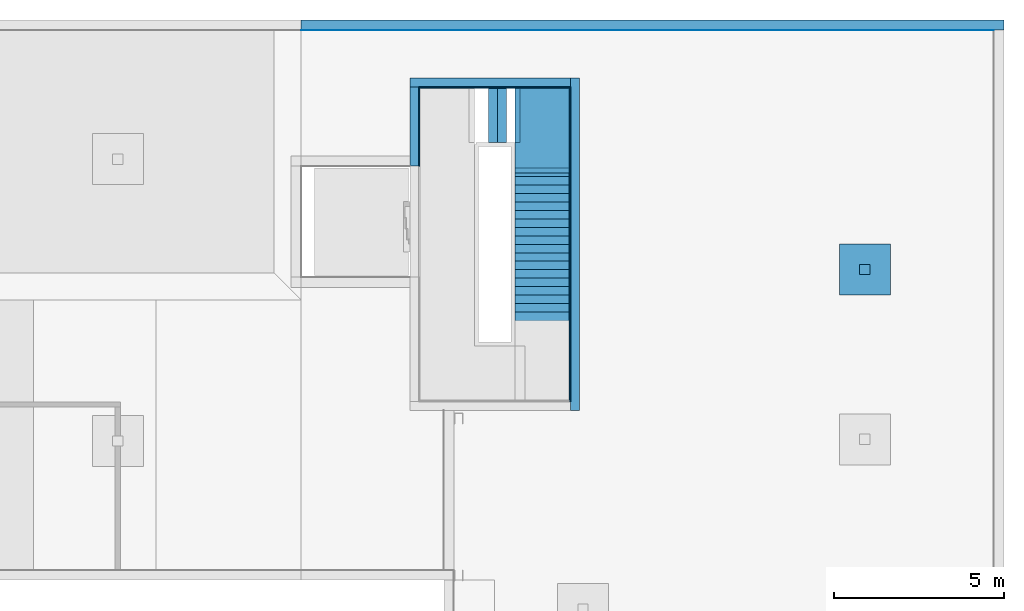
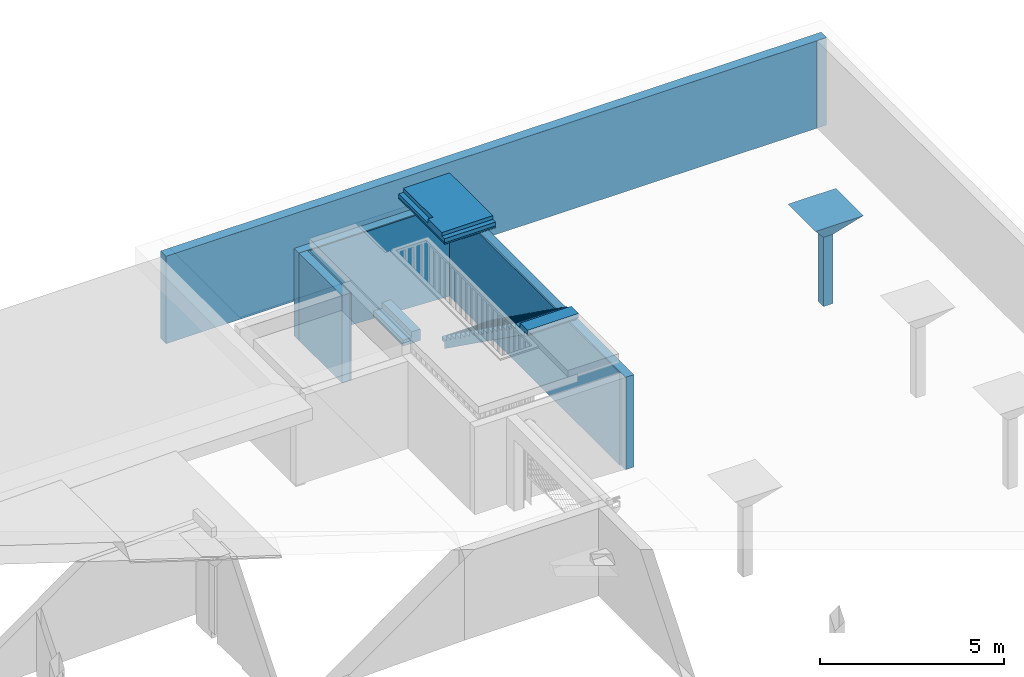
# One storey, part 6 of 7: 14 building element parts, 8 elements without a shape of their own.
"""IFC4 building model written with IfcOpenShell, lengths in millimetres."""

from ifc_helpers import new_model, entity, si_unit, converted_unit, derived_unit, direction, frame, origin_with_axes, place, context, subcontext, project, spatial, polygons, material, type_object, element, aggregate, save


model = new_model("IFC4")

# Units and contexts
model_context = context("Model", 3, precision=0.01, world=origin_with_axes(), true_north=direction((0.0, 1.0)))
body_context = subcontext(model_context, "Body", "Model", "MODEL_VIEW")
ifc_project = project(units=[si_unit("LENGTHUNIT", "METRE", prefix="MILLI"), si_unit("AREAUNIT", "SQUARE_METRE"), si_unit("VOLUMEUNIT", "CUBIC_METRE"), converted_unit("PLANEANGLEUNIT", "DEGREE", entity("IfcPlaneAngleMeasure", 0.0174532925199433), si_unit("PLANEANGLEUNIT", "RADIAN"), dimensions=[0, 0, 0, 0, 0, 0, 0]), converted_unit("TIMEUNIT", "Year", entity("IfcTimeMeasure", 31557600.0), si_unit("TIMEUNIT", "SECOND"), dimensions=[0, 0, 1, 0, 0, 0, 0]), si_unit("MASSUNIT", "GRAM", prefix="KILO"), si_unit("THERMODYNAMICTEMPERATUREUNIT", "DEGREE_CELSIUS"), si_unit("LUMINOUSINTENSITYUNIT", "LUMEN"), si_unit("ENERGYUNIT", "JOULE", prefix="MEGA"), derived_unit("THERMALCONDUCTANCEUNIT", [(si_unit("POWERUNIT", "WATT"), 1), (si_unit("LENGTHUNIT", "METRE"), -1), (si_unit("THERMODYNAMICTEMPERATUREUNIT", "KELVIN"), -1)]), derived_unit("SPECIFICHEATCAPACITYUNIT", [(si_unit("ENERGYUNIT", "JOULE"), 1), (si_unit("MASSUNIT", "GRAM", prefix="KILO"), -1), (si_unit("THERMODYNAMICTEMPERATUREUNIT", "KELVIN"), -1)]), derived_unit("MASSDENSITYUNIT", [(si_unit("MASSUNIT", "GRAM", prefix="KILO"), 1), (si_unit("VOLUMEUNIT", "CUBIC_METRE"), -1)])], contexts=[model_context])

# Site, building, storey
site_placement = place(None, origin_with_axes())
site = spatial("IfcSite", under=ifc_project, at=site_placement, Name="Gelände", CompositionType="ELEMENT")
building_placement = place(site_placement, origin_with_axes())
building = spatial("IfcBuilding", under=site, at=building_placement, Name="Gebäude", CompositionType="ELEMENT")
storey_placement = place(building_placement, frame((0.0, 0.0, -3900.000000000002), z_axis=(0.0, 0.0, 1.0), x_axis=(1.0, 0.0, 0.0)))
storey = spatial("IfcBuildingStorey", under=building, at=storey_placement, Name="UG", CompositionType="ELEMENT", Elevation=-3900.0)

# Wall, building element parts
wall_type_1 = type_object("IfcWallType", Name="Aussenwand Typ 03 301", PredefinedType="NOTDEFINED")
wall_1_placement = place(storey_placement, frame((32928.99744477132, 39447.61122469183, 600.0000000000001), z_axis=(0.0, 0.0, 1.0), x_axis=(-0.9999999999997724, -6.74744748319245e-07, 0.0)))
wall_1 = element("IfcWall", 1, at=wall_1_placement, inside=storey, type_object=wall_type_1, Name="Wand-013", PredefinedType="NOTDEFINED")
ifc_material_1 = material(Name="Anstrich Innen")
building_element_part_1_placement = place(wall_1_placement, origin_with_axes())
building_element_part_1 = element("IfcBuildingElementPart", 2, at=building_element_part_1_placement, material=ifc_material_1, Name="Anstrich Innen", PredefinedType="NOTDEFINED", context=body_context, shape_type="Tessellation", body=[
    polygons([(20700.00000000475, 300.9999999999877, 0.0), (20700.00000000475, 299.9999999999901, 0.0), (300.0004048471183, 299.9999999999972, 0.0), (300.0004061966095, 300.9999999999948, 0.0), (20700.00000000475, 300.9999999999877, 2900.000051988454), (20700.00000000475, 299.9999999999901, 2900.000051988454), (300.0004048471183, 299.9999999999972, 2900.000051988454), (300.0004061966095, 300.9999999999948, 2900.000051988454)], [[[1, 2, 3, 4]], [[1, 5, 6, 2]], [[2, 6, 7, 3]], [[4, 3, 7, 8]], [[5, 1, 4, 8]], [[6, 5, 8, 7]]], closed=True),
])
ifc_material_2 = material(Name="Beton bewehrt")
building_element_part_2_placement = place(wall_1_placement, origin_with_axes())
building_element_part_2 = element("IfcBuildingElementPart", 3, at=building_element_part_2_placement, material=ifc_material_2, Name="Beton bewehrt", PredefinedType="NOTDEFINED", context=body_context, shape_type="Tessellation", body=[
    polygons([(20700.00000000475, 299.9999999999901, 0.0), (20700.00000000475, 0.0, 0.0), (0.0, 0.0, 0.0), (0.0004048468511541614, 300.0000000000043, 0.0), (20700.00000000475, 299.9999999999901, 2900.000051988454), (20700.00000000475, 0.0, 2900.000051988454), (0.0, 0.0, 2900.000051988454), (0.0004048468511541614, 300.0000000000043, 2900.000051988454)], [[[1, 2, 3, 4]], [[1, 5, 6, 2]], [[2, 6, 7, 3]], [[4, 3, 7, 8]], [[5, 1, 4, 8]], [[6, 5, 8, 7]]], closed=True),
])
aggregate(wall_1, [building_element_part_1, building_element_part_2])

# Footing, building element parts
footing_type = type_object("IfcFootingType", Name="Verschiedene Strukturen - 2 Segmente - 1500 x 1500 x 3064 (2298+766)", PredefinedType="NOTDEFINED")
footing_placement = place(storey_placement, frame((28828.99742092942, 32097.59728131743, 436.000000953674), z_axis=(0.0, 0.0, 1.0), x_axis=(0.0, -1.0, 0.0)))
footing = element("IfcFooting", 4, at=footing_placement, inside=storey, type_object=footing_type, Name="Stütze-014", PredefinedType="NOTDEFINED")
building_element_part_3_placement = place(footing_placement, origin_with_axes())
building_element_part_3 = element("IfcBuildingElementPart", 5, at=building_element_part_3_placement, material=ifc_material_2, Name="Beton bewehrt", PredefinedType="NOTDEFINED", context=body_context, shape_type="Tessellation", body=[
    polygons([(149.999999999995, 149.9999999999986, 2298.000038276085), (149.999999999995, 149.9999999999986, 0.0), (-149.9999999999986, 149.9999999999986, 0.0), (-149.9999999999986, 149.9999999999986, 2298.000038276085), (149.999999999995, -149.9999999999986, 2298.000038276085), (149.999999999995, -149.9999999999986, 0.0), (-149.9999999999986, -149.9999999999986, 0.0), (-149.9999999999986, -149.9999999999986, 2298.000038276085)], [[[1, 2, 3, 4]], [[5, 6, 2, 1]], [[3, 2, 6, 7]], [[4, 3, 7, 8]], [[5, 1, 4, 8]], [[8, 7, 6, 5]]], closed=True),
])
building_element_part_4_placement = place(footing_placement, origin_with_axes())
building_element_part_4 = element("IfcBuildingElementPart", 6, at=building_element_part_4_placement, material=ifc_material_2, Name="Beton bewehrt", PredefinedType="NOTDEFINED", context=body_context, shape_type="Tessellation", body=[
    polygons([(-750.0, 750.0, 3064.00005103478), (749.9999999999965, 749.9999999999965, 3064.00005103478), (149.999999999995, 149.9999999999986, 2298.000038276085), (-149.9999999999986, 149.9999999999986, 2298.000038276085), (-750.000000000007, -750.0, 3064.00005103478), (749.9999999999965, -750.0000000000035, 3064.00005103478), (149.999999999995, -149.9999999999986, 2298.000038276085), (-149.9999999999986, -149.9999999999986, 2298.000038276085)], [[[1, 2, 3, 4]], [[5, 6, 2, 1]], [[2, 6, 7, 3]], [[8, 4, 3, 7]], [[5, 1, 4, 8]], [[6, 5, 8, 7]]], closed=True),
])
aggregate(footing, [building_element_part_3, building_element_part_4])

# Plate, building element parts
plate_type = type_object("IfcPlateType", Name="Podest Typ 01 300", PredefinedType="NOTDEFINED")
plate_placement = place(storey_placement, frame((18285.42683944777, 37437.5972813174, 4539.999999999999), z_axis=(0.0, 0.0, 1.0), x_axis=(1.0, 0.0, 0.0)))
plate = element("IfcPlate", 7, at=plate_placement, inside=storey, type_object=plate_type, Name="Deckennr.-073", PredefinedType="NOTDEFINED")
building_element_part_5_placement = place(plate_placement, origin_with_axes())
building_element_part_5 = element("IfcBuildingElementPart", 8, at=building_element_part_5_placement, material=ifc_material_2, Name="Beton bewehrt", PredefinedType="NOTDEFINED", context=body_context, shape_type="Tessellation", body=[
    polygons([(243.5707352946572, 1.98682670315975e-06, -139.999948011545), (393.5707352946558, 1.98682670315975e-06, -139.999948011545), (393.5707352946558, 1.98682670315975e-06, 5.198845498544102e-05), (1843.570605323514, 0.0, 0.0), (1843.570605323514, 0.0, -250.0000000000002), (243.5707352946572, 1.98682670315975e-06, -250.0000000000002), (243.5707352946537, -1599.999998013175, -139.999948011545), (393.5707352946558, -1599.999998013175, -139.999948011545), (393.5707352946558, -1599.999998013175, 5.198845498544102e-05), (243.5705982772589, -1599.999998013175, 5.198845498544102e-05), (243.5705982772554, -2344.999999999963, 5.198845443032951e-05), (1843.570598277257, -2344.999999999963, 5.198845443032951e-05), (1843.570598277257, -2344.999999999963, -119.9999480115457), (1843.570598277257, -2494.999999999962, -119.9999480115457), (1843.570598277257, -2494.999999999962, -250.0000000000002), (243.5707352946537, -1599.999998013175, -250.0000000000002), (243.5705982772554, -2494.999999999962, -250.0000000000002), (243.5705982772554, -2494.999999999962, -119.9999480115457), (243.5705982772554, -2344.999999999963, -119.9999480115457)], [[[1, 2, 3, 4, 5, 6]], [[2, 1, 7, 8]], [[9, 3, 2, 8]], [[9, 10, 11, 12, 4, 3]], [[13, 14, 15, 5, 4, 12]], [[16, 6, 5, 15, 17]], [[1, 6, 16, 7]], [[10, 9, 8, 7]], [[7, 16, 17, 18, 19, 11, 10]], [[19, 13, 12, 11]], [[18, 14, 13, 19]], [[17, 15, 14, 18]]], closed=True),
])
ifc_material_3 = material(Name="Sichtbeton")
building_element_part_6_placement = place(plate_placement, origin_with_axes())
building_element_part_6 = element("IfcBuildingElementPart", 9, at=building_element_part_6_placement, material=ifc_material_3, Name="Sichtbeton", PredefinedType="NOTDEFINED", context=body_context, shape_type="Tessellation", body=[
    polygons([(243.5707352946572, 1.98682670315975e-06, -299.9999480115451), (243.5707352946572, 1.98682670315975e-06, -250.0000000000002), (1843.570605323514, 0.0, -250.0000000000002), (1843.570605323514, 0.0, -300.0000000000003), (243.5707352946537, -1599.999998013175, -250.0000000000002), (243.5707352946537, -1599.999998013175, -299.999948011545), (243.5705982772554, -2494.999999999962, -250.0000000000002), (1843.570598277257, -2494.999999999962, -250.0000000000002), (1843.570598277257, -2494.999999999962, -299.9999480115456), (243.5705982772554, -2494.999999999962, -299.9999480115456)], [[[1, 2, 3, 4]], [[5, 2, 1, 6]], [[2, 5, 7, 8, 3]], [[3, 8, 9, 4]], [[6, 1, 4, 9, 10]], [[5, 6, 10, 7]], [[10, 9, 8, 7]]], closed=True),
    polygons([(243.5705982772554, -2506.120132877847, -299.9999480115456), (1843.570598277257, -2506.120132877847, -299.9999480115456), (1843.570605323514, -2511.666666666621, -300.0000000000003), (243.5705982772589, -2511.666666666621, -300.0000000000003), (1843.570598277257, -2511.666666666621, -296.8051446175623), (243.5705982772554, -2511.666666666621, -296.8051446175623)], [[[1, 2, 3, 4]], [[5, 2, 1, 6]], [[2, 5, 3]], [[5, 6, 4, 3]], [[6, 1, 4]]], closed=True),
])
aggregate(plate, [building_element_part_5, building_element_part_6])

# Stair, building element part
stair_type = type_object("IfcStairType", Name="Treppentyp", PredefinedType="NOTDEFINED")
stair_1_placement = place(storey_placement, frame((20128.99743772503, 35092.59728131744, 1100.000103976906), z_axis=(0.0, 0.0, 1.0), x_axis=(1.0, 0.0, 0.0)))
stair_1 = element("IfcStair", 10, at=stair_1_placement, inside=storey, type_object=stair_type, Name="Treppe-001", PredefinedType="NOTDEFINED")
building_element_part_7_placement = place(stair_1_placement, origin_with_axes())
building_element_part_7 = element("IfcBuildingElementPart", 11, at=building_element_part_7_placement, material=ifc_material_2, Name="Beton bewehrt", PredefinedType="NOTDEFINED", context=body_context, shape_type="Tessellation", body=[
    polygons([(0.0, -4500.000000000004, 2879.999844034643), (0.0, -4500.000000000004, 2719.999844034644), (0.0, -4396.403444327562, 2719.999844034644), (0.0, -4333.333333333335, 2674.886166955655), (0.0, -4250.0, 2615.278326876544), (0.0, -4166.666666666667, 2555.670486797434), (0.0, -4083.333333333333, 2496.062646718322), (0.0, -4000.0, 2436.454806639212), (0.0, -3916.666666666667, 2376.846966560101), (0.0, -3833.333333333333, 2317.239126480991), (0.0, -3750.0, 2257.63128640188), (0.0, -3666.666666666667, 2198.023446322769), (0.0, -3583.333333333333, 2138.415606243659), (0.0, -3500.0, 2078.807766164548), (0.0, -3416.666666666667, 2019.199926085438), (0.0, -3333.333333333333, 1959.592086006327), (0.0, -3250.0, 1899.984245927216), (0.0, -3166.666666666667, 1840.376405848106), (0.0, -3083.333333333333, 1780.768565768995), (0.0, -3000.0, 1721.160725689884), (0.0, -2916.666666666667, 1661.552885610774), (0.0, -2833.333333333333, 1601.945045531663), (0.0, -2750.0, 1542.337205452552), (0.0, -2666.666666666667, 1482.729365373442), (0.0, -2583.333333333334, 1423.121525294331), (0.0, -2500.0, 1363.51368521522), (0.0, -2416.666666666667, 1303.90584513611), (0.0, -2333.333333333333, 1244.298005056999), (0.0, -2250.0, 1184.690164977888), (0.0, -2166.666666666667, 1125.082324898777), (0.0, -2083.333333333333, 1065.474484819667), (0.0, -2000.0, 1005.866644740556), (0.0, -1916.666666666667, 946.2588046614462), (0.0, -1833.333333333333, 886.6509645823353), (0.0, -1750.0, 827.0431245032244), (0.0, -1666.666666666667, 767.4352844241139), (0.0, -1583.333333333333, 707.827444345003), (0.0, -1500.0, 648.2196042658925), (0.0, -1416.666666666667, 588.6117641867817), (0.0, -1333.333333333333, 529.0039241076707), (0.0, -1250.0, 469.3960840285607), (0.0, -1166.666666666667, 409.7882439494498), (0.0, -1083.333333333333, 350.1804038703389), (0.0, -1000.0, 290.5725637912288), (0.0, -916.6666666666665, 230.964723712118), (0.0, -833.3333333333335, 171.3568836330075), (0.0, -750.0, 111.7490435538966), (0.0, -666.6666666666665, 52.14120347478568), (0.0, -583.3333333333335, -7.466636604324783), (0.0, -500.0, -67.07447668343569), (0.0, -416.666666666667, -126.6823167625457), (0.0, -333.333333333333, -186.2901568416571), (0.0, -250.0, -245.8979969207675), (0.0, -174.3639720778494, -300.0000000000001), (0.0, -149.9999999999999, -300.0000000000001), (0.0, -149.9999999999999, -120.0000000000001), (0.0, 0.0, -120.0000000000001), (0.0, 0.0, 0.0), (0.0, -250.0, 0.0), (0.0, -250.0, 178.8235202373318), (0.0, -500.0, 178.8235202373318), (0.0, -500.0, 357.6470404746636), (0.0, -750.0, 357.6470404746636), (0.0, -750.0, 536.470560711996), (0.0, -1000.0, 536.470560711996), (0.0, -1000.0, 715.2940809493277), (0.0, -1250.0, 715.2940809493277), (0.0, -1250.0, 894.1176011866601), (0.0, -1500.0, 894.1176011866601), (0.0, -1500.0, 1072.941121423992), (0.0, -1750.0, 1072.941121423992), (0.0, -1750.0, 1251.764641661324), (0.0, -2000.0, 1251.764641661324), (0.0, -2000.0, 1430.588161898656), (0.0, -2250.0, 1430.588161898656), (0.0, -2250.0, 1609.411682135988), (0.0, -2500.0, 1609.411682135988), (0.0, -2500.0, 1788.23520237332), (0.0, -2750.0, 1788.23520237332), (0.0, -2750.0, 1967.058722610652), (0.0, -3000.0, 1967.058722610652), (0.0, -3000.0, 2145.882242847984), (0.0, -3250.0, 2145.882242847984), (0.0, -3250.0, 2324.705763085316), (0.0, -3500.0, 2324.705763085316), (0.0, -3500.0, 2503.529283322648), (0.0, -3750.0, 2503.529283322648), (0.0, -3750.0, 2682.35280355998), (0.0, -4000.0, 2682.35280355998), (0.0, -4000.0, 2861.176323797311), (0.0, -4250.0, 2861.176323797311), (0.0, -4250.0, 3019.999844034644), (0.0, -4650.000000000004, 3019.999844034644), (0.0, -4650.000000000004, 2879.999844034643), (-1600.0, -4500.000000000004, 2879.999844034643), (-1600.0, -4500.000000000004, 2719.999844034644), (-1600.0, -4396.403444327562, 2719.999844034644), (-1600.0, -4333.333333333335, 2674.886166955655), (-1600.0, -4250.0, 2615.278326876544), (-1600.0, -4166.666666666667, 2555.670486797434), (-1600.0, -4083.333333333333, 2496.062646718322), (-1600.0, -4000.0, 2436.454806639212), (-1600.0, -3916.666666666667, 2376.846966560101), (-1600.0, -3833.333333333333, 2317.239126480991), (-1600.0, -3750.0, 2257.63128640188), (-1600.0, -3666.666666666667, 2198.023446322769), (-1600.0, -3583.333333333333, 2138.415606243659), (-1600.0, -3500.0, 2078.807766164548), (-1600.0, -3416.666666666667, 2019.199926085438), (-1600.0, -3333.333333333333, 1959.592086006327), (-1600.0, -3250.0, 1899.984245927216), (-1600.0, -3166.666666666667, 1840.376405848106), (-1600.0, -3083.333333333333, 1780.768565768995), (-1600.0, -3000.0, 1721.160725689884), (-1600.0, -2916.666666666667, 1661.552885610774), (-1600.0, -2833.333333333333, 1601.945045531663), (-1600.0, -2750.0, 1542.337205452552), (-1600.0, -2666.666666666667, 1482.729365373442), (-1600.0, -2583.333333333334, 1423.121525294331), (-1600.0, -2500.0, 1363.51368521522), (-1600.0, -2416.666666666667, 1303.90584513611), (-1600.0, -2333.333333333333, 1244.298005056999), (-1600.0, -2250.0, 1184.690164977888), (-1600.0, -2166.666666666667, 1125.082324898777), (-1600.0, -2083.333333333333, 1065.474484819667), (-1600.0, -2000.0, 1005.866644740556), (-1600.0, -1916.666666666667, 946.2588046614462), (-1600.0, -1833.333333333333, 886.6509645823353), (-1600.0, -1750.0, 827.0431245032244), (-1600.0, -1666.666666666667, 767.4352844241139), (-1600.0, -1583.333333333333, 707.827444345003), (-1600.0, -1500.0, 648.2196042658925), (-1600.0, -1416.666666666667, 588.6117641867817), (-1600.0, -1333.333333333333, 529.0039241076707), (-1600.0, -1250.0, 469.3960840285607), (-1600.0, -1166.666666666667, 409.7882439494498), (-1600.0, -1083.333333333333, 350.1804038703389), (-1600.0, -1000.0, 290.5725637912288), (-1600.0, -916.6666666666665, 230.964723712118), (-1600.0, -833.3333333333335, 171.3568836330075), (-1600.0, -750.0, 111.7490435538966), (-1600.0, -666.6666666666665, 52.14120347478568), (-1600.0, -583.3333333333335, -7.466636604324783), (-1600.0, -500.0, -67.07447668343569), (-1600.0, -416.666666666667, -126.6823167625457), (-1600.0, -333.333333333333, -186.2901568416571), (-1600.0, -250.0, -245.8979969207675), (-1600.0, -174.3639720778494, -300.0000000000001), (-1600.0, -149.9999999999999, -300.0000000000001), (-1600.0, -149.9999999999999, -120.0000000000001), (-1600.0, 0.0, -120.0000000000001), (-1600.0, 0.0, 0.0), (-1600.0, -250.0, 0.0), (-1600.0, -250.0, 178.8235202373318), (-1600.0, -500.0, 178.8235202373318), (-1600.0, -500.0, 357.6470404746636), (-1600.0, -750.0, 357.6470404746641), (-1600.0, -750.0, 536.470560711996), (-1600.0, -1000.0, 536.470560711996), (-1600.0, -1000.0, 715.2940809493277), (-1600.0, -1250.0, 715.2940809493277), (-1600.0, -1250.0, 894.1176011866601), (-1600.0, -1500.0, 894.1176011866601), (-1600.0, -1500.0, 1072.941121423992), (-1600.0, -1750.0, 1072.941121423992), (-1600.0, -1750.0, 1251.764641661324), (-1600.0, -2000.0, 1251.764641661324), (-1600.0, -2000.0, 1430.588161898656), (-1600.0, -2250.0, 1430.588161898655), (-1600.0, -2250.0, 1609.411682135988), (-1600.0, -2500.0, 1609.411682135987), (-1600.0, -2500.0, 1788.23520237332), (-1600.0, -2750.0, 1788.23520237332), (-1600.0, -2750.0, 1967.058722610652), (-1600.0, -3000.0, 1967.058722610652), (-1600.0, -3000.0, 2145.882242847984), (-1600.0, -3250.0, 2145.882242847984), (-1600.0, -3250.0, 2324.705763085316), (-1600.0, -3500.0, 2324.705763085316), (-1600.0, -3500.0, 2503.529283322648), (-1600.0, -3750.0, 2503.529283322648), (-1600.0, -3750.0, 2682.35280355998), (-1600.0, -4000.0, 2682.35280355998), (-1600.0, -4000.0, 2861.176323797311), (-1600.0, -4250.0, 2861.176323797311), (-1600.0, -4250.0, 3019.999844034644), (-1600.0, -4650.000000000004, 3019.999844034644), (-1600.0, -4650.000000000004, 2879.999844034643)], [[[1, 2, 3, 4, 5, 6, 7, 8, 9, 10, 11, 12, 13, 14, 15, 16, 17, 18, 19, 20, 21, 22, 23, 24, 25, 26, 27, 28, 29, 30, 31, 32, 33, 34, 35, 36, 37, 38, 39, 40, 41, 42, 43, 44, 45, 46, 47, 48, 49, 50, 51, 52, 53, 54, 55, 56, 57, 58, 59, 60, 61, 62, 63, 64, 65, 66, 67, 68, 69, 70, 71, 72, 73, 74, 75, 76, 77, 78, 79, 80, 81, 82, 83, 84, 85, 86, 87, 88, 89, 90, 91, 92, 93, 94]], [[2, 1, 95, 96]], [[2, 96, 97, 3]], [[97, 98, 4, 3]], [[99, 5, 4, 98]], [[100, 6, 5, 99]], [[101, 7, 6, 100]], [[102, 8, 7, 101]], [[103, 9, 8, 102]], [[104, 10, 9, 103]], [[105, 11, 10, 104]], [[106, 12, 11, 105]], [[107, 13, 12, 106]], [[108, 14, 13, 107]], [[109, 15, 14, 108]], [[110, 16, 15, 109]], [[111, 17, 16, 110]], [[112, 18, 17, 111]], [[113, 19, 18, 112]], [[114, 20, 19, 113]], [[115, 21, 20, 114]], [[116, 22, 21, 115]], [[117, 23, 22, 116]], [[118, 24, 23, 117]], [[119, 25, 24, 118]], [[120, 26, 25, 119]], [[121, 27, 26, 120]], [[122, 28, 27, 121]], [[123, 29, 28, 122]], [[124, 30, 29, 123]], [[125, 31, 30, 124]], [[126, 32, 31, 125]], [[127, 33, 32, 126]], [[128, 34, 33, 127]], [[129, 35, 34, 128]], [[130, 36, 35, 129]], [[131, 37, 36, 130]], [[132, 38, 37, 131]], [[133, 39, 38, 132]], [[134, 40, 39, 133]], [[135, 41, 40, 134]], [[136, 42, 41, 135]], [[137, 43, 42, 136]], [[138, 44, 43, 137]], [[139, 45, 44, 138]], [[140, 46, 45, 139]], [[141, 47, 46, 140]], [[142, 48, 47, 141]], [[143, 49, 48, 142]], [[144, 50, 49, 143]], [[145, 51, 50, 144]], [[146, 52, 51, 145]], [[147, 53, 52, 146]], [[148, 54, 53, 147]], [[149, 55, 54, 148]], [[56, 55, 149, 150]], [[151, 57, 56, 150]], [[57, 151, 152, 58]], [[153, 59, 58, 152]], [[59, 153, 154, 60]], [[155, 61, 60, 154]], [[61, 155, 156, 62]], [[157, 63, 62, 156]], [[63, 157, 158, 64]], [[159, 65, 64, 158]], [[65, 159, 160, 66]], [[161, 67, 66, 160]], [[67, 161, 162, 68]], [[163, 69, 68, 162]], [[69, 163, 164, 70]], [[165, 71, 70, 164]], [[71, 165, 166, 72]], [[167, 73, 72, 166]], [[73, 167, 168, 74]], [[169, 75, 74, 168]], [[75, 169, 170, 76]], [[171, 77, 76, 170]], [[77, 171, 172, 78]], [[173, 79, 78, 172]], [[79, 173, 174, 80]], [[175, 81, 80, 174]], [[81, 175, 176, 82]], [[177, 83, 82, 176]], [[83, 177, 178, 84]], [[179, 85, 84, 178]], [[85, 179, 180, 86]], [[181, 87, 86, 180]], [[87, 181, 182, 88]], [[183, 89, 88, 182]], [[89, 183, 184, 90]], [[185, 91, 90, 184]], [[185, 186, 92, 91]], [[92, 186, 187, 93]], [[188, 94, 93, 187]], [[1, 94, 188, 95]], [[95, 188, 187, 186, 185, 184, 183, 182, 181, 180, 179, 178, 177, 176, 175, 174, 173, 172, 171, 170, 169, 168, 167, 166, 165, 164, 163, 162, 161, 160, 159, 158, 157, 156, 155, 154, 153, 152, 151, 150, 149, 148, 147, 146, 145, 144, 143, 142, 141, 140, 139, 138, 137, 136, 135, 134, 133, 132, 131, 130, 129, 128, 127, 126, 125, 124, 123, 122, 121, 120, 119, 118, 117, 116, 115, 114, 113, 112, 111, 110, 109, 108, 107, 106, 105, 104, 103, 102, 101, 100, 99, 98, 97, 96]]], closed=True),
])
aggregate(stair_1, [building_element_part_7])

# Wall, building element parts
wall_type_2 = type_object("IfcWallType", Name="Innenwand Typ 06 300", PredefinedType="NOTDEFINED")
wall_2_placement = place(storey_placement, frame((15428.99744477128, 37737.59728131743, 600.0000000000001), z_axis=(0.0, 0.0, 1.0), x_axis=(0.0, -1.0, 0.0)))
wall_2 = element("IfcWall", 12, at=wall_2_placement, inside=storey, type_object=wall_type_2, Name="Wand-014", PredefinedType="NOTDEFINED")
building_element_part_8_placement = place(wall_2_placement, origin_with_axes())
building_element_part_8 = element("IfcBuildingElementPart", 13, at=building_element_part_8_placement, material=ifc_material_3, Name="Sichtbeton", PredefinedType="NOTDEFINED", context=body_context, shape_type="Tessellation", body=[
    polygons([(2589.999999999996, 299.9999999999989, 0.0), (2589.999999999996, 259.9999999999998, 0.0), (299.9999999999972, 259.9999999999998, 0.0), (299.9999999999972, 300.0000000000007, 0.0), (2589.999999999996, 299.9999999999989, 2900.0), (2589.999999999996, 259.9999999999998, 2900.0), (299.9999999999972, 259.9999999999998, 2900.0), (299.9999999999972, 300.0000000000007, 2900.0)], [[[1, 2, 3, 4]], [[1, 5, 6, 2]], [[2, 6, 7, 3]], [[4, 3, 7, 8]], [[5, 1, 4, 8]], [[6, 5, 8, 7]]], closed=True),
])
building_element_part_9_placement = place(wall_2_placement, origin_with_axes())
building_element_part_9 = element("IfcBuildingElementPart", 14, at=building_element_part_9_placement, material=ifc_material_2, Name="Beton bewehrt", PredefinedType="NOTDEFINED", context=body_context, shape_type="Tessellation", body=[
    polygons([(2589.999999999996, 259.9999999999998, 0.0), (2589.999999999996, 0.0, 0.0), (259.999999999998, 0.0, 0.0), (259.999999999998, 259.9999999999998, 0.0), (2589.999999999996, 259.9999999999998, 2900.0), (2589.999999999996, 0.0, 2900.0), (259.999999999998, 0.0, 2900.0), (259.999999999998, 259.9999999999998, 2900.0)], [[[1, 2, 3, 4]], [[1, 5, 6, 2]], [[2, 6, 7, 3]], [[4, 3, 7, 8]], [[5, 1, 4, 8]], [[6, 5, 8, 7]]], closed=True),
])
aggregate(wall_2, [building_element_part_8, building_element_part_9])

wall_3_placement = place(storey_placement, frame((20428.99744477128, 27947.59728131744, 438.0000000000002), z_axis=(0.0, 0.0, 1.0), x_axis=(0.0, 1.0, 0.0)))
wall_3 = element("IfcWall", 15, at=wall_3_placement, inside=storey, type_object=wall_type_2, Name="Wand-014", PredefinedType="NOTDEFINED")
building_element_part_10_placement = place(wall_3_placement, origin_with_axes())
building_element_part_10 = element("IfcBuildingElementPart", 16, at=building_element_part_10_placement, material=ifc_material_3, Name="Sichtbeton", PredefinedType="NOTDEFINED", context=body_context, shape_type="Tessellation", body=[
    polygons([(9529.999999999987, 260.0000000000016, 0.0), (260.0000000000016, 260.0000000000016, 0.0), (260.0000000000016, 300.0000000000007, 0.0), (9529.999999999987, 300.0000000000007, 0.0), (9529.999999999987, 260.0000000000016, 3062.000000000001), (260.0000000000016, 260.0000000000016, 3062.000000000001), (260.0000000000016, 300.0000000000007, 3062.000000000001), (9529.999999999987, 300.0000000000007, 3062.000000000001)], [[[1, 2, 3, 4]], [[5, 6, 2, 1]], [[3, 2, 6, 7]], [[4, 3, 7, 8]], [[4, 8, 5, 1]], [[8, 7, 6, 5]]], closed=True),
])
building_element_part_11_placement = place(wall_3_placement, origin_with_axes())
building_element_part_11 = element("IfcBuildingElementPart", 17, at=building_element_part_11_placement, material=ifc_material_2, Name="Beton bewehrt", PredefinedType="NOTDEFINED", context=body_context, shape_type="Tessellation", body=[
    polygons([(9789.999999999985, 0.0, 0.0), (0.0, 0.0, 0.0), (0.0, 260.0000000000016, 0.0), (9789.999999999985, 260.0000000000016, 0.0), (9789.999999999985, 0.0, 3062.000000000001), (0.0, 0.0, 3062.000000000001), (0.0, 260.0000000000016, 3062.000000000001), (9789.999999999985, 260.0000000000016, 3062.000000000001)], [[[1, 2, 3, 4]], [[5, 6, 2, 1]], [[3, 2, 6, 7]], [[4, 3, 7, 8]], [[4, 8, 5, 1]], [[8, 7, 6, 5]]], closed=True),
])
aggregate(wall_3, [building_element_part_10, building_element_part_11])

wall_4_placement = place(storey_placement, frame((20428.99744477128, 37737.59728131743, 438.0000000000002), z_axis=(0.0, 0.0, 1.0), x_axis=(-1.0, 0.0, 0.0)))
wall_4 = element("IfcWall", 18, at=wall_4_placement, inside=storey, type_object=wall_type_2, Name="Wand-014", PredefinedType="NOTDEFINED")
building_element_part_12_placement = place(wall_4_placement, origin_with_axes())
building_element_part_12 = element("IfcBuildingElementPart", 19, at=building_element_part_12_placement, material=ifc_material_3, Name="Sichtbeton", PredefinedType="NOTDEFINED", context=body_context, shape_type="Tessellation", body=[
    polygons([(300.0000000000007, 299.9999999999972, 13.99999999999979), (300.0000000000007, 259.999999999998, 13.99999999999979), (300.0000000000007, 259.999999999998, 3062.0), (300.0000000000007, 299.9999999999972, 3062.0), (3999.999999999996, 259.999999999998, 162.000000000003), (3999.999999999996, 299.9999999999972, 162.000000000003), (4739.999999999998, 259.999999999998, 161.9999999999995), (4739.999999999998, 259.999999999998, 3062.0), (4739.999999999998, 299.9999999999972, 3062.0), (4739.999999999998, 299.9999999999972, 161.9999999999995)], [[[1, 2, 3, 4]], [[5, 2, 1, 6]], [[2, 5, 7, 8, 3]], [[8, 9, 4, 3]], [[6, 1, 4, 9, 10]], [[5, 6, 10, 7]], [[10, 9, 8, 7]]], closed=True),
])
building_element_part_13_placement = place(wall_4_placement, origin_with_axes())
building_element_part_13 = element("IfcBuildingElementPart", 20, at=building_element_part_13_placement, material=ifc_material_2, Name="Beton bewehrt", PredefinedType="NOTDEFINED", context=body_context, shape_type="Tessellation", body=[
    polygons([(260.0000000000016, 259.999999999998, 12.40000000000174), (260.0000000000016, 0.0, 12.40000000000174), (260.0000000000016, 0.0, 3062.0), (260.0000000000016, 259.999999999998, 3062.0), (3999.999999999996, 0.0, 162.000000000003), (3999.999999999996, 259.999999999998, 162.000000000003), (4999.999999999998, 0.0, 161.9999999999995), (4999.999999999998, 0.0, 3062.0), (4999.999999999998, 259.999999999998, 3062.0), (4999.999999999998, 259.999999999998, 161.9999999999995)], [[[1, 2, 3, 4]], [[5, 2, 1, 6]], [[2, 5, 7, 8, 3]], [[8, 9, 4, 3]], [[6, 1, 4, 9, 10]], [[5, 6, 10, 7]], [[10, 9, 8, 7]]], closed=True),
])
aggregate(wall_4, [building_element_part_12, building_element_part_13])

# Stair, building element part
stair_2_placement = place(storey_placement, frame((17752.03450004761, 37437.59727928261, 599.4856484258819), z_axis=(0.0, 0.0, 1.0), x_axis=(-1.0, 0.0, 0.0)))
stair_2 = element("IfcStair", 21, at=stair_2_placement, inside=storey, type_object=stair_type, Name="Treppe-001", PredefinedType="NOTDEFINED")
building_element_part_14_placement = place(stair_2_placement, origin_with_axes())
building_element_part_14 = element("IfcBuildingElementPart", 22, at=building_element_part_14_placement, material=ifc_material_2, Name="Beton bewehrt", PredefinedType="NOTDEFINED", context=body_context, shape_type="Tessellation", body=[
    polygons([(-262.3637402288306, 1600.0, 190.2572277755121), (-262.3637402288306, 0.0, 190.2572277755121), (7.121804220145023, 0.0, 190.2572277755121), (7.121804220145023, 1600.0, 190.2572277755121), (-262.3637402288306, 1600.0, 380.5144555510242), (-262.3637402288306, 0.0, 380.5144555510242), (7.121804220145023, 0.0, 0.0), (-531.8492846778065, 0.0, 380.5144555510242), (-531.8492846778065, 0.0, 0.0), (7.121804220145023, 1600.0, 0.0), (-531.8492846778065, 1600.0, 0.0), (-531.8492846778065, 1600.0, 380.5144555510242)], [[[1, 2, 3, 4]], [[2, 1, 5, 6]], [[7, 3, 2, 6, 8, 9]], [[3, 7, 10, 4]], [[1, 4, 10, 11, 12, 5]], [[8, 6, 5, 12]], [[12, 11, 9, 8]], [[7, 9, 11, 10]]], closed=True),
])
aggregate(stair_2, [building_element_part_14])

save(model, "model.ifc")
